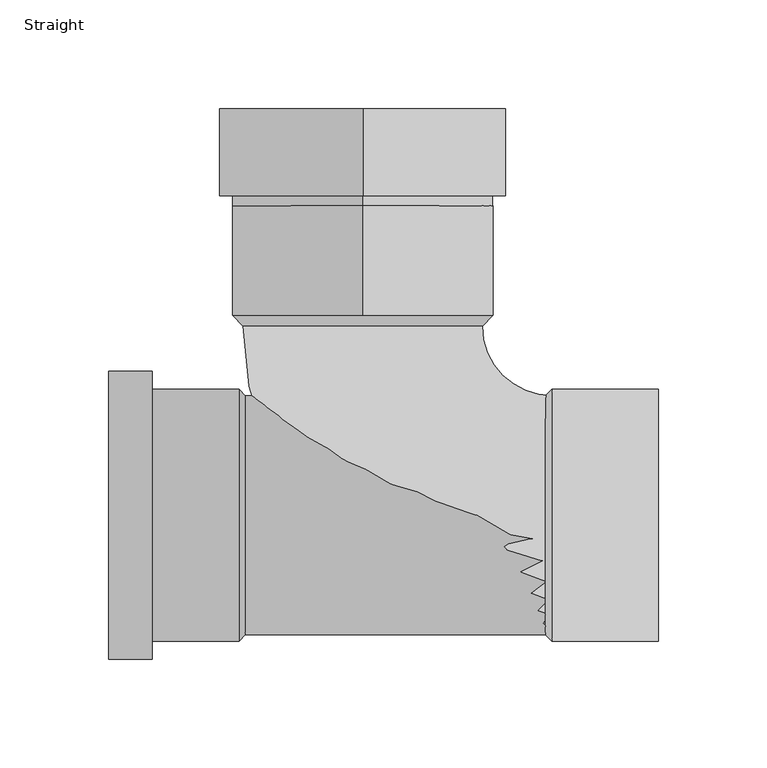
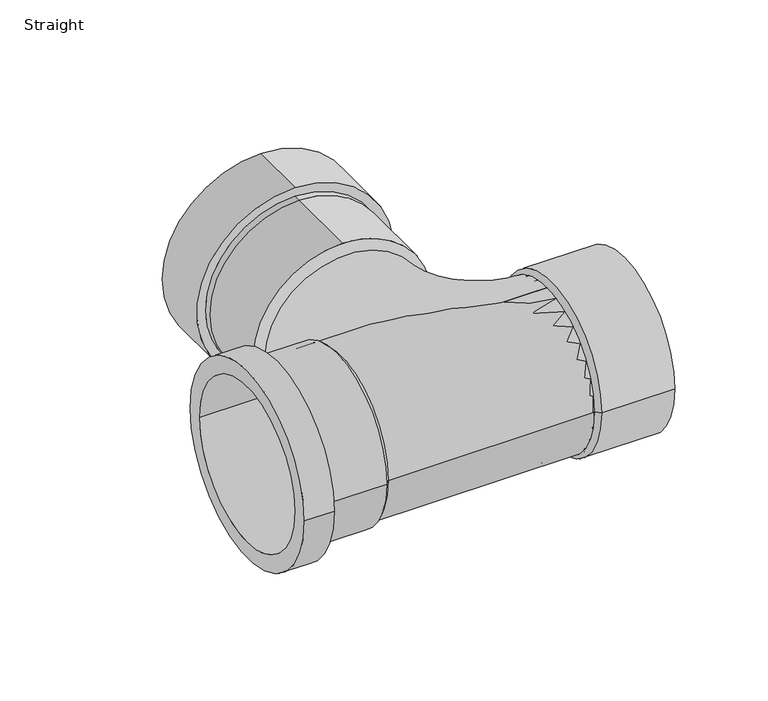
"""IFC4 building model written with IfcOpenShell, lengths in millimetres: pipe fitting geometry, Wavin_PipeAccessory_OsmaAccessoriesWcBranch : Straight."""

from ifc_helpers import new_model, si_unit, point, frame, origin, origin_2d, place, context, project, spatial, polyline, circle_curve, ellipse_curve, trimmed, segment, composite_curve, outline, extrude, source, transform, mapped, element, save
from ifc_brep_helpers import plane_surface, cylinder_surface, revolved_surface, advanced_brep


def straight_f1ba9349(model_context):
    return source(origin(), model_context, "Body", "SolidModel", [
        advanced_brep(
        [(-54.1, -55.0, 0.0), (-54.1, 55.0, 0.0), (-117.0, 55.0, 0.0), (-117.0, -55.0, 0.0), (-97.0, -57.9, 0.0), (-97.0, 57.9, 0.0), (-57.0, 57.9, 0.0), (-57.0, -57.9, 0.0), (-117.0, -66.25, 0.0), (-117.0, 66.25, 0.0), (-97.0, 66.25, 0.0), (-97.0, -66.25, 0.0)],
        [
            (0, 1, circle_curve(frame((-54.1, 0.0, 0.0), z_axis=(1.0, 0.0, 0.0), x_axis=(0.0, 1.0000000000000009, 0.0)), 55.0)),
            (1, 2),
            (2, 3, circle_curve(frame((-117.0, 0.0, 0.0), z_axis=(-1.0, 0.0, 0.0), x_axis=(0.0, 1.0000000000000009, 0.0)), 55.0)),
            (3, 0),
            (4, 5, circle_curve(frame((-97.0, 0.0, 0.0), z_axis=(1.0, 0.0, 0.0), x_axis=(0.0, 1.0000000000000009, 0.0)), 57.9)),
            (5, 6),
            (6, 7, circle_curve(frame((-57.0, 0.0, 0.0), z_axis=(-1.0, 0.0, 0.0), x_axis=(0.0, 1.0000000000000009, 0.0)), 57.9)),
            (7, 4),
            (1, 0, circle_curve(frame((-54.1, 0.0, 0.0), z_axis=(1.0, 0.0, 0.0), x_axis=(0.0, -1.0000000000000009, 0.0)), 55.0)),
            (3, 2, circle_curve(frame((-117.0, 0.0, 0.0), z_axis=(-1.0, 0.0, 0.0), x_axis=(0.0, -1.0000000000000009, 0.0)), 55.0)),
            (5, 4, circle_curve(frame((-97.0, 0.0, 0.0), z_axis=(1.0, 0.0, 0.0), x_axis=(0.0, -1.0000000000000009, 0.0)), 57.9)),
            (7, 6, circle_curve(frame((-57.0, 0.0, 0.0), z_axis=(-1.0, 0.0, 0.0), x_axis=(0.0, -1.0000000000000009, 0.0)), 57.9)),
            (8, 9, circle_curve(frame((-117.0, 0.0, 0.0), z_axis=(1.0, 0.0, 0.0), x_axis=(0.0, 1.0000000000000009, 0.0)), 66.25)),
            (9, 10),
            (10, 11, circle_curve(frame((-97.0, 0.0, 0.0), z_axis=(-1.0, 0.0, 0.0), x_axis=(0.0, 1.0000000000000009, 0.0)), 66.25)),
            (11, 8),
            (10, 11, circle_curve(frame((-97.0, 0.0, 0.0), z_axis=(1.0, 0.0, 0.0), x_axis=(0.0, -1.0000000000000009, 0.0)), 66.25)),
            (9, 8, circle_curve(frame((-117.0, 0.0, 0.0), z_axis=(1.0, 0.0, 0.0), x_axis=(0.0, -1.0000000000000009, 0.0)), 66.25)),
            (6, 1),
            (0, 7),
        ],
        [
            revolved_surface(polyline([(-117.00000000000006, 55.00000000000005, 0.0), (-54.1, 55.00000000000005, 0.0)]), (-57.0, 0.0, 0.0), (-1.0000000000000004, 0.0, 0.0)),
            cylinder_surface(frame((-57.0, 0.0, 0.0), z_axis=(-1.0000000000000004, 0.0, 0.0), x_axis=(0.0, 1.0000000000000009, 0.0)), 57.9),
            revolved_surface(polyline([(-117.00000000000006, -55.00000000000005, 0.0), (-54.1, -55.00000000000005, 0.0)]), (-57.0, 0.0, 0.0), (-1.0000000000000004, 0.0, 0.0)),
            cylinder_surface(frame((-57.0, 0.0, 0.0), z_axis=(-1.0000000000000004, 0.0, 0.0), x_axis=(0.0, -1.0000000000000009, 0.0)), 57.9),
            cylinder_surface(frame((-57.0, 0.0, 0.0), z_axis=(-1.0000000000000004, 0.0, 0.0), x_axis=(0.0, 1.0000000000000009, 0.0)), 66.25),
            plane_surface(frame((-97.0, 0.0, 0.0), z_axis=(1.0, 0.0, 0.0), x_axis=(0.0, -1.0, 0.0))),
            cylinder_surface(frame((-57.0, 0.0, 0.0), z_axis=(-1.0000000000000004, 0.0, 0.0), x_axis=(0.0, -1.0000000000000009, 0.0)), 66.25),
            plane_surface(frame((-117.0, 0.0, 0.0), z_axis=(-1.0, 0.0, 0.0), x_axis=(0.0, -1.0, 0.0))),
            revolved_surface(polyline([(-54.1, 55.0, 0.0), (-57.0, 57.9, 0.0)]), (-57.0, 0.0, 0.0), (-1.0000000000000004, 0.0, 0.0)),
            revolved_surface(polyline([(-54.1, -55.0, 0.0), (-57.0, -57.9, 0.0)]), (-57.0, 0.0, 0.0), (-1.0000000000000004, 0.0, 0.0)),
        ],
        [
            (0, [[1, 2, 3, 4]]),
            (1, [[5, 6, 7, 8]]),
            (2, [[9, -4, 10, -2]]),
            (3, [[11, -8, 12, -6]]),
            (4, [[13, 14, 15, 16]]),
            (5, [[17, -15], [-11, -5]]),
            (6, [[18, -16, -17, -14]]),
            (7, [[-18, -13], [-10, -3]]),
            (8, [[-7, 19, -1, 20]]),
            (9, [[-12, -20, -9, -19]]),
        ],
    ),
        advanced_brep(
        [(87.0, 57.9, 0.0), (87.0, -57.9, 0.0), (84.1, -55.0, 0.0), (84.1, 55.0, 0.0), (136.0, 57.9, 0.0), (136.0, -57.9, 0.0), (136.0, -55.0, 0.0), (136.0, 55.0, 0.0)],
        [
            (0, 1, circle_curve(frame((87.0, 0.0, 0.0), z_axis=(-1.0, 0.0, 0.0), x_axis=(0.0, -1.0, 0.0)), 57.9)),
            (1, 2),
            (2, 3, circle_curve(frame((84.1, 0.0, 0.0), z_axis=(1.0, 0.0, 0.0), x_axis=(0.0, -1.0, 0.0)), 55.0)),
            (3, 0),
            (4, 5, circle_curve(frame((136.0, 0.0, 0.0), z_axis=(-1.0, 0.0, 0.0), x_axis=(0.0, -1.0, 0.0)), 57.9)),
            (5, 1),
            (0, 4),
            (2, 6),
            (6, 7, circle_curve(frame((136.0, 0.0, 0.0), z_axis=(1.0, 0.0, 0.0), x_axis=(0.0, -1.0, 0.0)), 55.0)),
            (7, 3),
            (1, 0, circle_curve(frame((87.0, 0.0, 0.0), z_axis=(-1.0, 0.0, 0.0), x_axis=(0.0, 1.0, 0.0)), 57.9)),
            (3, 2, circle_curve(frame((84.1, 0.0, 0.0), z_axis=(1.0, 0.0, 0.0), x_axis=(0.0, 1.0, 0.0)), 55.0)),
            (5, 4, circle_curve(frame((136.0, 0.0, 0.0), z_axis=(-1.0, 0.0, 0.0), x_axis=(0.0, 1.0, 0.0)), 57.9)),
            (6, 7, circle_curve(frame((136.0, 0.0, 0.0), z_axis=(-1.0, 0.0, 0.0), x_axis=(0.0, 1.0, 0.0)), 55.0)),
        ],
        [
            revolved_surface(polyline([(84.1, -55.0, 0.0), (87.0, -57.9, 0.0)]), (87.0, 0.0, 0.0), (1.0, 0.0, 0.0)),
            cylinder_surface(frame((87.0, 0.0, 0.0), z_axis=(1.0, 0.0, 0.0), x_axis=(0.0, -1.0, 0.0)), 57.9),
            revolved_surface(polyline([(136.0, -55.0, 0.0), (84.1, -55.0, 0.0)]), (87.0, 0.0, 0.0), (1.0, 0.0, 0.0)),
            revolved_surface(polyline([(84.1, 55.0, 0.0), (87.0, 57.9, 0.0)]), (87.0, 0.0, 0.0), (1.0, 0.0, 0.0)),
            cylinder_surface(frame((87.0, 0.0, 0.0), z_axis=(1.0, 0.0, 0.0), x_axis=(0.0, 1.0, 0.0)), 57.9),
            plane_surface(frame((136.0, 0.0, 0.0), z_axis=(1.0, 0.0, 0.0), x_axis=(0.0, 1.0, 0.0))),
            revolved_surface(polyline([(136.0, 55.0, 0.0), (84.1, 55.0, 0.0)]), (87.0, 0.0, 0.0), (1.0, 0.0, 0.0)),
        ],
        [
            (0, [[1, 2, 3, 4]]),
            (1, [[5, 6, -1, 7]]),
            (2, [[-3, 8, 9, 10]]),
            (3, [[11, -4, 12, -2]]),
            (4, [[13, -7, -11, -6]]),
            (5, [[-13, -5], [14, -9]]),
            (6, [[-12, -10, -14, -8]]),
        ],
    ),
        advanced_brep(
        [(87.0, -55.0, 0.0), (87.0, 55.0, 0.0), (55.0, 87.0, 0.0), (-55.0, 87.0, 0.0)],
        [
            (0, 1, circle_curve(frame((87.0, 0.0, 0.0), z_axis=(1.0, 0.0, 0.0), x_axis=(0.0, 1.0, 0.0)), 55.0)),
            (1, 0, circle_curve(frame((87.0, 0.0, 0.0), z_axis=(1.0, 0.0, 0.0), x_axis=(0.0, 1.0, 0.0)), 55.0)),
            (2, 1, circle_curve(frame((87.0, 87.0, 0.0), z_axis=(0.0, 0.0, 1.0), x_axis=(0.0, -1.0, 0.0)), 32.0)),
            (0, 3, circle_curve(frame((87.0, 87.0, 0.0), z_axis=(0.0, 0.0, -1.0), x_axis=(0.0, -1.0, 0.0)), 142.0)),
            (3, 2, circle_curve(frame((0.0, 87.0, 0.0), z_axis=(0.0, -1.0, 0.0), x_axis=(1.0, 0.0, 0.0)), 55.0)),
            (2, 3, circle_curve(frame((0.0, 87.0, 0.0), z_axis=(0.0, -1.0, 0.0), x_axis=(1.0, 0.0, 0.0)), 55.0)),
        ],
        [
            plane_surface(frame((87.0, 87.0, -50.0), z_axis=(1.0, 0.0, 0.0), x_axis=(0.0, -1.0, 0.0))),
            revolved_surface(trimmed(ellipse_curve(frame((87.0, 0.0, 0.0), z_axis=(1.0, 0.0, 0.0), x_axis=(0.0, 1.0, 0.0)), 55.0, 55.0), [point((87.0, -55.0, 0.0))], [point((87.0, 55.0, 0.0))], True, "CARTESIAN"), (87.0, 87.0, -50.0), (0.0, 0.0, -1.0)),
            revolved_surface(trimmed(ellipse_curve(frame((87.0, 0.0, 0.0), z_axis=(1.0, 0.0, 0.0), x_axis=(0.0, 1.0, 0.0)), 55.0, 55.0), [point((87.0, 55.0, 0.0))], [point((87.0, -55.0, 0.0))], True, "CARTESIAN"), (87.0, 87.0, -50.0), (0.0, 0.0, -1.0)),
            plane_surface(frame((87.0, 87.0, -50.0), z_axis=(0.0, 1.0, 0.0), x_axis=(-1.0, 0.0, 0.0))),
        ],
        [
            (0, [[1, 2]]),
            (1, [[3, -1, 4, 5]]),
            (2, [[-4, -2, -3, 6]]),
            (3, [[-6, -5]]),
        ],
    ),
        advanced_brep(
        [(0.0, 187.0, -66.0), (0.0, 187.0, 66.0), (0.0, 187.0, 56.5), (0.0, 187.0, -56.5), (0.0, 142.474576, 60.0), (0.0, 142.474576, -60.0), (0.0, 147.0, -60.0), (0.0, 147.0, 60.0), (0.0, 92.0, 60.0), (60.0, 92.0, 0.0), (0.0, 92.0, -60.0), (-60.0, 92.0, 0.0), (0.0, 147.0, -66.0), (0.0, 147.0, 66.0), (0.0, 117.0, 56.5), (0.0, 117.0, -56.5), (55.0, 87.0, 0.0), (-55.0, 87.0, 0.0)],
        [
            (0, 1, circle_curve(frame((0.0, 187.0, 0.0), z_axis=(0.0, 1.0, 0.0), x_axis=(0.0, 0.0, 1.0)), 66.0)),
            (1, 0, circle_curve(frame((0.0, 187.0, 0.0), z_axis=(0.0, 1.0, 0.0), x_axis=(0.0, 0.0, 1.0)), 66.0)),
            (2, 3, circle_curve(frame((0.0, 187.0, 0.0), z_axis=(0.0, -1.0, 0.0), x_axis=(0.0, 0.0, -1.0)), 56.5)),
            (3, 2, circle_curve(frame((0.0, 187.0, 0.0), z_axis=(0.0, -1.0, 0.0), x_axis=(0.0, 0.0, -1.0)), 56.5)),
            (4, 5, circle_curve(frame((0.0, 142.474576, 0.0), z_axis=(0.0, 1.0, 0.0), x_axis=(0.0, 0.0, -1.0)), 60.0)),
            (5, 6),
            (6, 7, circle_curve(frame((0.0, 147.0, 0.0), z_axis=(0.0, -1.0, 0.0), x_axis=(0.0, 0.0, -1.0)), 60.0)),
            (7, 4),
            (5, 4, circle_curve(frame((0.0, 142.474576, 0.0), z_axis=(0.0, 1.0, 0.0), x_axis=(0.0, 0.0, -1.0)), 60.0)),
            (7, 6, circle_curve(frame((0.0, 147.0, 0.0), z_axis=(0.0, -1.0, 0.0), x_axis=(0.0, 0.0, -1.0)), 60.0)),
            (4, 8),
            (8, 9, circle_curve(frame((0.0, 92.0, 0.0), z_axis=(0.0, 1.0, 0.0), x_axis=(0.0, 0.0, -1.0)), 60.0)),
            (9, 10, circle_curve(frame((0.0, 92.0, 0.0), z_axis=(0.0, 1.0, 0.0), x_axis=(0.0, 0.0, -1.0)), 60.0)),
            (10, 5),
            (10, 11, circle_curve(frame((0.0, 92.0, 0.0), z_axis=(0.0, 1.0, 0.0), x_axis=(0.0, 0.0, -1.0)), 60.0)),
            (11, 8, circle_curve(frame((0.0, 92.0, 0.0), z_axis=(0.0, 1.0, 0.0), x_axis=(0.0, 0.0, -1.0)), 60.0)),
            (12, 13, circle_curve(frame((0.0, 147.0, 0.0), z_axis=(0.0, -1.0, 0.0), x_axis=(0.0, 0.0, 1.0)), 66.0)),
            (13, 12, circle_curve(frame((0.0, 147.0, 0.0), z_axis=(0.0, -1.0, 0.0), x_axis=(0.0, 0.0, 1.0)), 66.0)),
            (13, 1),
            (0, 12),
            (14, 15, circle_curve(frame((0.0, 117.0, 0.0), z_axis=(0.0, 1.0, 0.0), x_axis=(0.0, 0.0, -1.0)), 56.5)),
            (15, 14, circle_curve(frame((0.0, 117.0, 0.0), z_axis=(0.0, 1.0, 0.0), x_axis=(0.0, 0.0, -1.0)), 56.5)),
            (15, 3),
            (2, 14),
            (9, 16),
            (16, 17, circle_curve(frame((0.0, 87.0, 0.0), z_axis=(0.0, 1.0, 0.0), x_axis=(-1.0, 0.0, 0.0)), 55.0)),
            (17, 11),
            (17, 16, circle_curve(frame((0.0, 87.0, 0.0), z_axis=(0.0, 1.0, 0.0), x_axis=(1.0, 0.0, 0.0)), 55.0)),
        ],
        [
            plane_surface(frame((0.0, 187.0, 0.0), z_axis=(0.0, 1.0, 0.0), x_axis=(1.0, 0.0, 0.0))),
            cylinder_surface(frame((0.0, 187.0, 0.0), z_axis=(0.0, 1.0, 0.0), x_axis=(0.0, 0.0, -1.0)), 60.0),
            cylinder_surface(frame((0.0, 142.474576, 0.0), z_axis=(0.0, 1.0, 0.0), x_axis=(0.0, 0.0, -1.0)), 60.0),
            plane_surface(frame((0.0, 147.0, 66.0), z_axis=(0.0, -1.0, 0.0), x_axis=(-1.0, 0.0, 0.0))),
            cylinder_surface(frame((0.0, 147.0, 0.0), z_axis=(0.0, 1.0, 0.0), x_axis=(0.0, 0.0, 1.0)), 66.0),
            plane_surface(frame((0.0, 117.0, -56.5), z_axis=(0.0, 1.0, 0.0), x_axis=(1.0, 0.0, 0.0))),
            revolved_surface(polyline([(0.0, 117.0, -56.5), (0.0, 187.0, -56.5)]), (0.0, 187.0, 0.0), (0.0, -1.0, 0.0)),
            revolved_surface(polyline([(-60.0, 92.0, 0.0), (-55.0, 87.0, 0.0)]), (0.0, 87.0, 0.0), (0.0, -1.0, 0.0)),
            revolved_surface(polyline([(60.0, 92.0, 0.0), (55.0, 87.0, 0.0)]), (0.0, 87.0, 0.0), (0.0, -1.0, 0.0)),
            plane_surface(frame((0.0, 87.0, 0.0), z_axis=(0.0, -1.0, 0.0), x_axis=(1.0, 0.0, 0.0))),
        ],
        [
            (0, [[1, 2], [3, 4]]),
            (1, [[5, 6, 7, 8]]),
            (1, [[9, -8, 10, -6]]),
            (2, [[-5, 11, 12, 13, 14]]),
            (2, [[-9, -14, 15, 16, -11]]),
            (3, [[17, 18], [-7, -10]]),
            (4, [[-18, 19, -1, 20]]),
            (4, [[-17, -20, -2, -19]]),
            (5, [[21, 22]]),
            (6, [[-22, 23, -3, 24]]),
            (6, [[-21, -24, -4, -23]]),
            (7, [[25, 26, 27, -15, -13]]),
            (8, [[-25, -12, -16, -27, 28]]),
            (9, [[-26, -28]]),
        ],
    ),
        extrude(outline(composite_curve([segment(trimmed(circle_curve(origin_2d(), 55.0), [point((-55.0, 0.0))], [point((55.0, 0.0))], False, "CARTESIAN"), True, "CONTINUOUS"), segment(trimmed(circle_curve(origin_2d(), 55.0), [point((55.0, 0.0))], [point((-55.0, 0.0))], False, "CARTESIAN"), True, "CONTINUOUS")], self_intersect=False)), frame((-57.0, 0.0, 0.0), z_axis=(1.0, 0.0, 0.0), x_axis=(0.0, 1.0, 0.0)), (0.0, 0.0, 1.0), 144.0),
    ])


if __name__ == "__main__":
    model = new_model("IFC4")
    model_context = context("Model", 3, world=origin())
    ifc_project = project(units=[si_unit("LENGTHUNIT", "METRE", prefix="MILLI")], contexts=[model_context])
    site = spatial("IfcSite", under=ifc_project)
    building = spatial("IfcBuilding", under=site)
    placement = place(None, origin())
    straight_shape = straight_f1ba9349(model_context)
    element("IfcPipeFitting", 1, ObjectType="Wavin_PipeAccessory_OsmaAccessoriesWcBranch : Straight", at=placement, inside=building, context=model_context, shape_type="MappedRepresentation", body=[
        mapped(straight_shape, transform((0.0, 0.0, 0.0), x_axis=(1.0, 0.0, 0.0), y_axis=(0.0, 1.0, 0.0), z_axis=(0.0, 0.0, 1.0))),
    ])
    save(model, "model.ifc")
